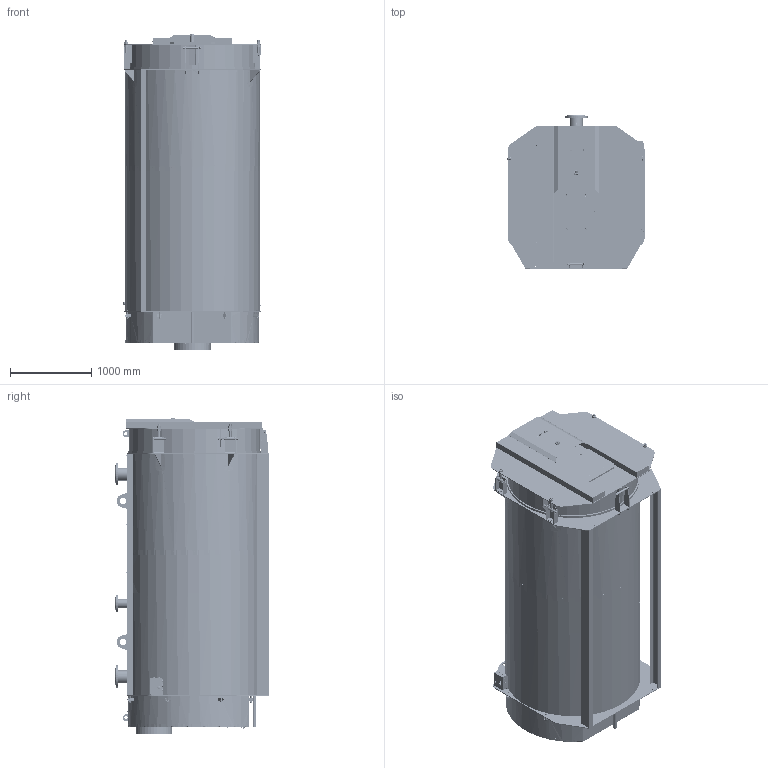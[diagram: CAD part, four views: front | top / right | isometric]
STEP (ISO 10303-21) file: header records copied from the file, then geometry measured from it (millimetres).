
FILE_DESCRIPTION(('STEP AP203'), '1');
FILE_NAME('Êîò¸ë ÒÈÒÀÍ Ïðîì 4 (2,0-2,5 ÌÂò)', '2024-06-11T09:18:54', (''), (''), 'ASCON STEP Converter 1.6', 'ASCON Math Kernel', '');
FILE_SCHEMA(('CONFIG_CONTROL_DESIGN'));
Length unit declared in the file: millimetre
Products named in the file (124): КЕВМ.3133.00.00.000-01; КЕВМ.3133.01.00.000-01; КЕВМ.3133.01.01.000-01; КЕВМ.3133.01.01.002; КЕВМ.3133.01.01.002-01; КЕВМ.3133.01.04.000; КЕВМ.3133.01.06.000-02; КЕВМ.3133.01.06.002-02; КЕВМ.3133.01.06.001-02; КЕВМ.3133.01.03.000; КЕВМ.3133.01.05.000; КЕВМ.3133.01.05.002; КЕВМ.3133.01.05.001; КЕВМ.3133.01.00.003-02; КЕВМ.3133.01.00.005; КЕВМ.3133.01.00.005-21; КЕВМ.3133.01.00.005-41; КЕВМ.3133.01.00.001; КЕВМ.3133.01.00.004-02; КЕВМ.3133.01.03.000-01; КЕВМ.3133.00.00.001; КЕВМ.3133.00.00.001-01; КЕВМ.3133.03.00.000; КЕВМ.3133.03.01.000; КЕВМ.3133.03.01.004; КЕВМ.3133.03.01.010; КЕВМ.3133.03.01.007-03; КЕВМ.3133.03.01.008-03; КЕВМ.3133.03.00.001; КЕВМ.3133.03.00.003; КЕВМ.3133.03.00.004; КЕВМ.3133.03.00.004-11; КЕВМ.3133.03.00.005-03; КЕВМ.3133.03.00.002; КЕВМ.3133.03.00.001-01; КЕВМ.3133.02.00.000; КЕВМ.3133.02.01.000; КЕВМ.3133.02.01.001; КЕВМ.3133.02.01.002; КЕВМ.3133.02.01.005-01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
Assembly tree (376 placements, depth 5):
  КЕВМ.3133.00.00.000-01
    КЕВМ.3133.01.00.000-01
      КЕВМ.3133.01.01.000-01
        КЕВМ.3133.01.01.002
      КЕВМ.3133.01.01.002-01
      КЕВМ.3133.01.04.000
        (unnamed)
        (unnamed)
      КЕВМ.3133.01.06.000-02  x2
        КЕВМ.3133.01.06.002-02
        КЕВМ.3133.01.06.001-02
      КЕВМ.3133.01.03.000
        (unnamed)
        (unnamed)
      КЕВМ.3133.01.05.000  x2
        КЕВМ.3133.01.05.002
        КЕВМ.3133.01.05.001
      (unnamed)
      (unnamed)
      КЕВМ.3133.01.00.003-02
      КЕВМ.3133.01.00.003-02
      КЕВМ.3133.01.00.005
      КЕВМ.3133.01.00.005-21
      КЕВМ.3133.01.00.005-41
      КЕВМ.3133.01.00.001
      КЕВМ.3133.01.00.004-02  x2
      КЕВМ.3133.01.06.000-02  x2
        КЕВМ.3133.01.06.002-02
        КЕВМ.3133.01.06.001-02
      КЕВМ.3133.01.00.004-02  x2
      КЕВМ.3133.01.03.000-01
        (unnamed)
        (unnamed)
        (unnamed)
    КЕВМ.3133.00.00.001
    КЕВМ.3133.00.00.001-01
    КЕВМ.3133.03.00.000
      КЕВМ.3133.03.01.000
        КЕВМ.3133.03.01.004
        КЕВМ.3133.03.01.010
        КЕВМ.3133.03.01.007-03  x4
        КЕВМ.3133.03.01.008-03
        КЕВМ.3133.03.01.007-03  x4
      КЕВМ.3133.03.00.001
      КЕВМ.3133.03.00.003
      КЕВМ.3133.03.00.004
      КЕВМ.3133.03.00.004-11
      КЕВМ.3133.03.00.005-03
      КЕВМ.3133.03.00.002
      (unnamed)  x4
      (unnamed)  x41
      (unnamed)  x27
      КЕВМ.3133.03.00.001-01
    КЕВМ.3133.02.00.000
      КЕВМ.3133.02.01.000
        КЕВМ.3133.02.01.001
        (unnamed)
          (unnamed)
        КЕВМ.3133.02.01.002
        (unnamed)
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Bounding box: 1688.16 x 1882 x 3886.43 mm (x, y, z)
Volume: 101368676.3 mm3; surface area: 72139522.6 mm2
Topology: 418 solids, 418 shells, 11569 faces, 27666 edges, 17826 vertices
Faces by surface type: plane 6069, cylinder 3959, bspline 603, cone 521, torus 392, sphere 17, extrusion 8
Full cylindrical faces by diameter (mm): 1.9 x5, 2 x70, 2.35 x165, 2.459 x4, 2.5 x2, 3 x11, 3.242 x2, 3.5 x17, 4 x181, 4.1 x70, 4.2 x4, 4.5 x8, 4.8 x1, 5 x7, 5.5 x34, 6 x9, 6.3 x4, 6.5 x20, 7 x12, 7.1 x26, 7.5 x1, 7.6 x1, 8 x11, 8.376 x3, 8.5 x6, 9 x3, 9.25 x4, 9.728 x1, 10 x17, 10.106 x6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
Entity records: 378390 total; most frequent: CARTESIAN_POINT 132893, DIRECTION 43336, ORIENTED_EDGE 42288, EDGE_CURVE 21144, AXIS2_PLACEMENT_3D 15316, VERTEX_POINT 14206, VECTOR 12704, LINE 12696
